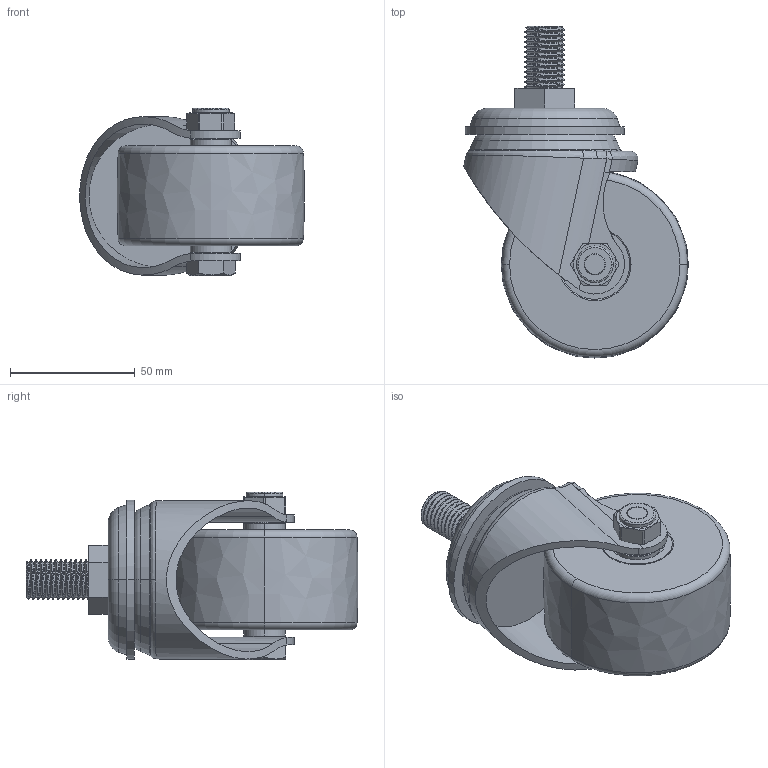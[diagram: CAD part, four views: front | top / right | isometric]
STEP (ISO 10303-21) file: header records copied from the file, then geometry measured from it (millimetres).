
FILE_DESCRIPTION((''),'2;1');
FILE_NAME('M433375-16_ASM','2022-01-15T',('lenovo'),(''),'PRO/ENGINEER BY PARAMETRIC TECHNOLOGY CORPORATION, 2010280','PRO/ENGINEER BY PARAMETRIC TECHNOLOGY CORPORATION, 2010280','');
FILE_SCHEMA(('CONFIG_CONTROL_DESIGN'));
Length unit declared in the file: millimetre
Products named in the file (11): M43375-311; M4330-211; M43075-916; 6001ZZ; 500-66; 640-54; M4375-16_ASM; M430-33; 640-34; 500-23; M433375-16_ASM
Assembly tree (12 placements, depth 3):
  M433375-16_ASM
    M43375-311
    M4330-211
    M4375-16_ASM
      M43075-916
      6001ZZ  x2
      500-66  x2
      640-54
    M430-33
    640-34
    500-23
Bounding box: 89.99 x 132.96 x 67.11 mm (x, y, z)
Volume: 246584.1 mm3; surface area: 65591.7 mm2
Topology: 43 solids, 43 shells, 298 faces, 736 edges, 405 vertices
Faces by surface type: cylinder 99, sphere 62, plane 57, torus 30, cone 25, bspline 25
Entity records: 11518 total; most frequent: CARTESIAN_POINT 6070, DIRECTION 1098, ORIENTED_EDGE 1068, EDGE_CURVE 534, AXIS2_PLACEMENT_3D 470, VERTEX_POINT 343, EDGE_LOOP 259, FACE_OUTER_BOUND 242
